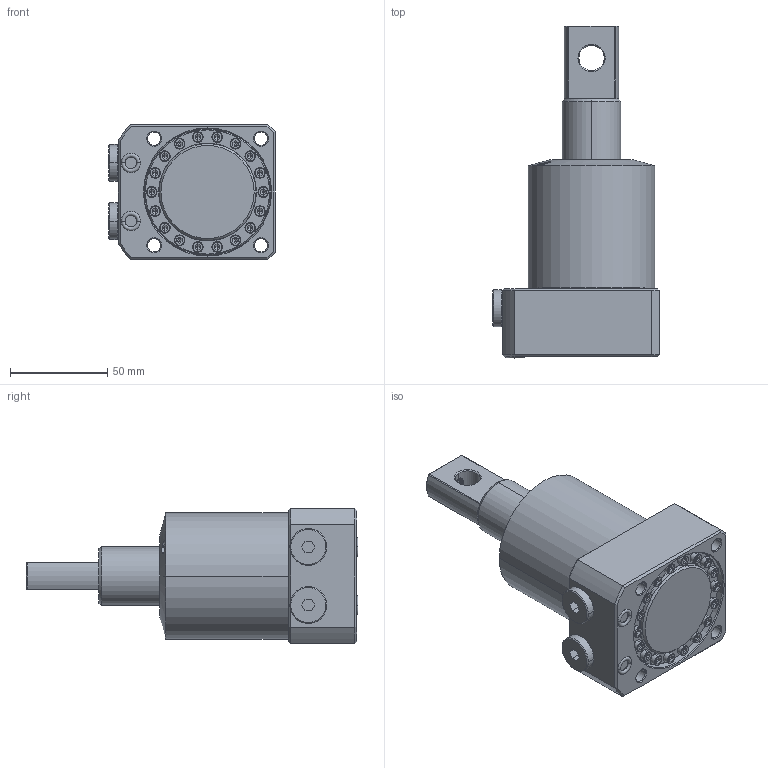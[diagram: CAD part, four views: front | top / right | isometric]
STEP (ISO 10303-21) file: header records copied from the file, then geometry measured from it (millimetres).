
FILE_DESCRIPTION((''),'2;1');
FILE_NAME('SIMP_GENERIC_SWING_CYD_65_PIN_ASM','2023-04-16T15:57:54',('Design 2'),(''),'CREO PARAMETRIC BY PTC INC, 2020053','CREO PARAMETRIC BY PTC INC, 2020053','');
FILE_SCHEMA(('CONFIG_CONTROL_DESIGN'));
Length unit declared in the file: millimetre
Products named in the file (13): BODY___; BODY_TOP_FLG____ASM; PIN_PISTON__SD; PISTON_ASM____ASM; SWINGER_ARM___; SWINGER_ARM_ASM____ASM; G-1-4_CLOSE_PLUG__; STATIC-O-RING-10X2S__; 1_____; 2_____; HALDER_SEALING-PLUG-228800_00___ASM; ISHCS03X12__; SIMP_GENERIC_SWING_CYD_65_PIN_ASM
Assembly tree (31 placements, depth 3):
  SIMP_GENERIC_SWING_CYD_65_PIN_ASM
    BODY_TOP_FLG____ASM
      BODY___
    PISTON_ASM____ASM
      PIN_PISTON__SD
    SWINGER_ARM_ASM____ASM
      SWINGER_ARM___
    G-1-4_CLOSE_PLUG__  x2
    STATIC-O-RING-10X2S__  x2
    HALDER_SEALING-PLUG-228800_00___ASM
      1_____
      2_____
    ISHCS03X12__  x18
Bounding box: 86 x 171 x 70 mm (x, y, z)
Volume: 419552.9 mm3; surface area: 78186.1 mm2
Topology: 27 solids, 27 shells, 1050 faces, 2274 edges, 1300 vertices
Faces by surface type: plane 354, cylinder 324, cone 300, torus 50, bspline 19, sphere 3
Entity records: 16224 total; most frequent: CARTESIAN_POINT 5055, DIRECTION 2441, ORIENTED_EDGE 2120, EDGE_CURVE 1060, AXIS2_PLACEMENT_3D 978, VERTEX_POINT 624, EDGE_LOOP 562, VECTOR 485
